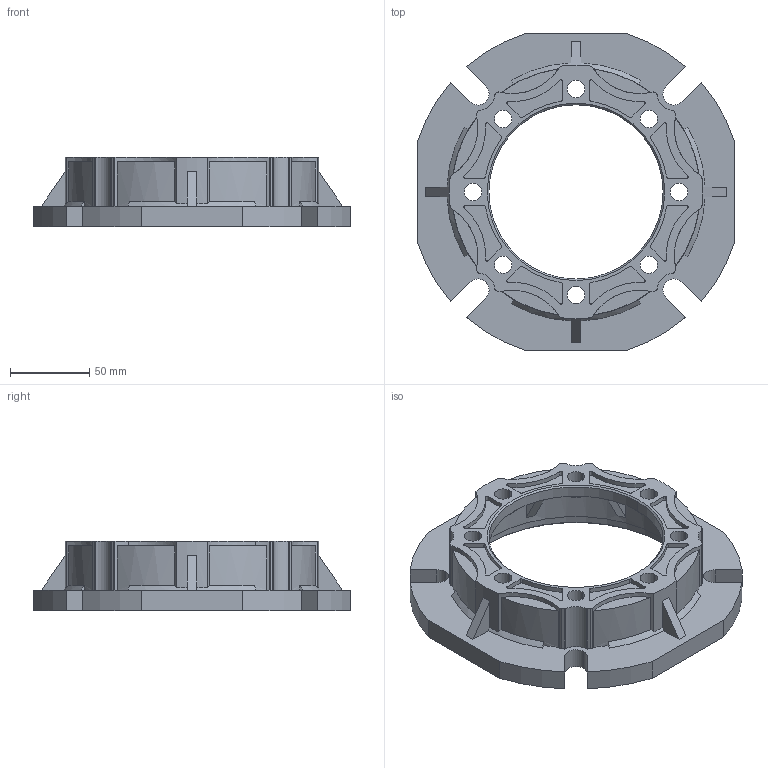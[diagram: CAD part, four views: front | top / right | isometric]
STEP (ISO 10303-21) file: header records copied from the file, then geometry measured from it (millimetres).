
FILE_DESCRIPTION (( 'STEP AP203' ), '1' );
FILE_NAME ('FCN 090-FA.STEP', '2017-01-19T05:51:04', ( 'jsk-23' ), ( 'hx' ), 'SwSTEP 2.0', 'SolidWorks 2012', '' );
FILE_SCHEMA (( 'CONFIG_CONTROL_DESIGN' ));
Length unit declared in the file: millimetre
Products named in the file (1): FCN 090-FA
Bounding box: 200 x 200 x 44 mm (x, y, z)
Volume: 252736.4 mm3; surface area: 115562.7 mm2
Topology: 1 solids, 1 shells, 574 faces, 1595 edges, 1062 vertices
Faces by surface type: cylinder 345, plane 217, cone 12
Entity records: 18841 total; most frequent: DIRECTION 3461, CARTESIAN_POINT 3319, ORIENTED_EDGE 3190, EDGE_CURVE 1595, AXIS2_PLACEMENT_3D 1320, VERTEX_POINT 1062, VECTOR 821, LINE 821
